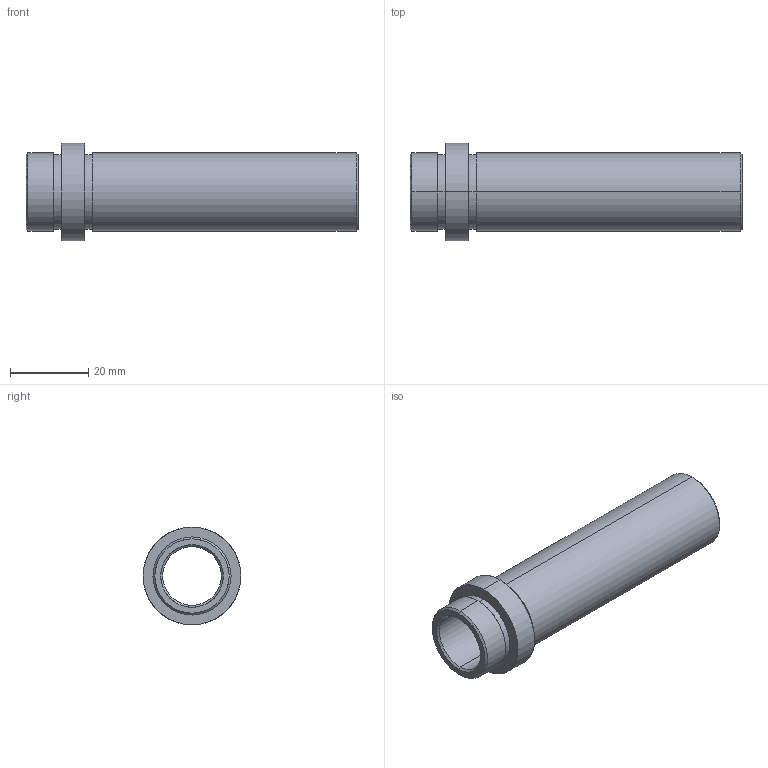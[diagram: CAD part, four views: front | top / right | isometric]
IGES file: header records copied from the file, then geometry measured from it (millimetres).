
Start section: SolidWorks IGES FILE using analytic representation for surfaces
Global section: file name: D:\zzzzz\Delta\D21\15\D21 - 15x76.IGS; native system: SolidWorks 2004 by SolidWorks Corporation; preprocessor: Version 5.3; author: Hkn; date: 080326.191521; units: millimetre
Bounding box: 85 x 25 x 25 mm (x, y, z)
Surface area: 10114.4 mm2 (no closed solid volume)
Topology: 0 solids, 0 shells, 26 faces, 464 edges, 464 vertices
Faces by surface type: revolution 20, bspline 6
